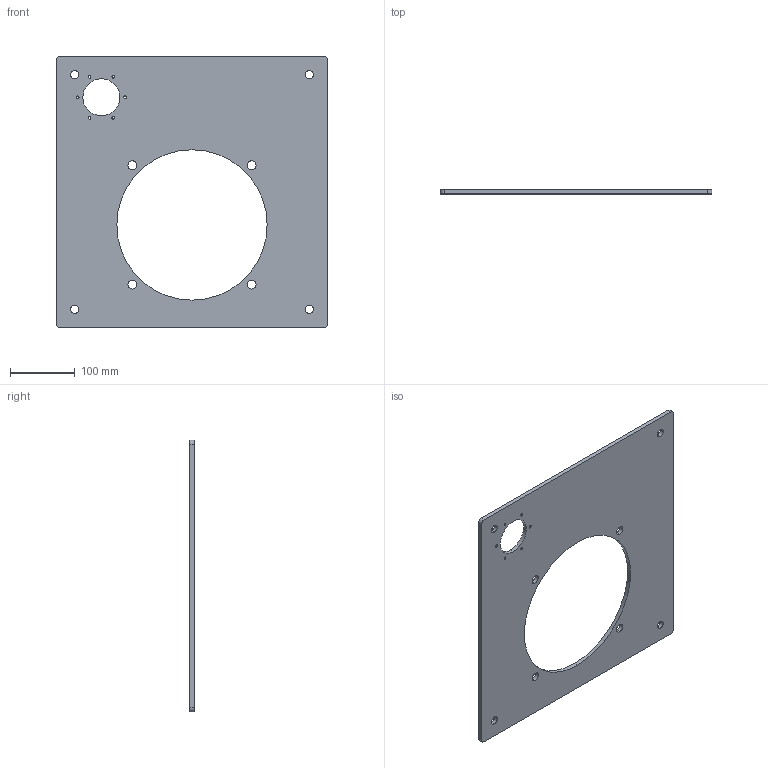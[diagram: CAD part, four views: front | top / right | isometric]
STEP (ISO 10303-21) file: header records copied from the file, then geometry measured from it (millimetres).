
FILE_DESCRIPTION (( 'STEP AP203' ), '1' );
FILE_NAME ('TVL-943-STEP.STEP', '2026-02-11T18:44:58', ( '' ), ( '' ), 'SwSTEP 2.0', 'SolidWorks 2025', '' );
FILE_SCHEMA (( 'CONFIG_CONTROL_DESIGN' ));
Length unit declared in the file: inch
Products named in the file (1): TVL-943-STEP
Bounding box: 419.1 x 6.35 x 419.1 mm (x, y, z)
Volume: 823599.9 mm3; surface area: 278312.3 mm2
Topology: 1 solids, 1 shells, 42 faces, 120 edges, 80 vertices
Faces by surface type: cylinder 36, plane 6
Entity records: 1559 total; most frequent: DIRECTION 278, CARTESIAN_POINT 243, ORIENTED_EDGE 240, EDGE_CURVE 120, AXIS2_PLACEMENT_3D 115, VERTEX_POINT 80, EDGE_LOOP 74, CIRCLE 72
